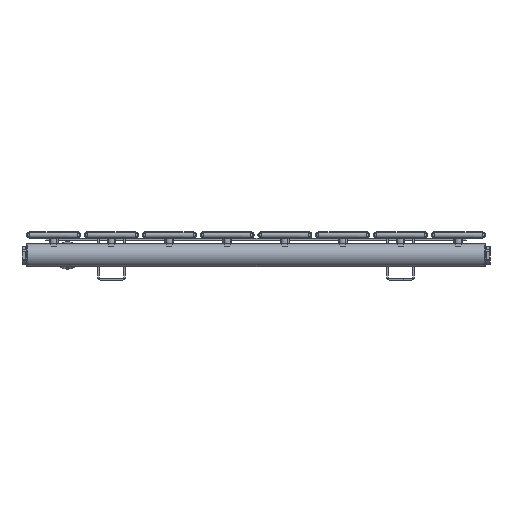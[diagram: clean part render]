
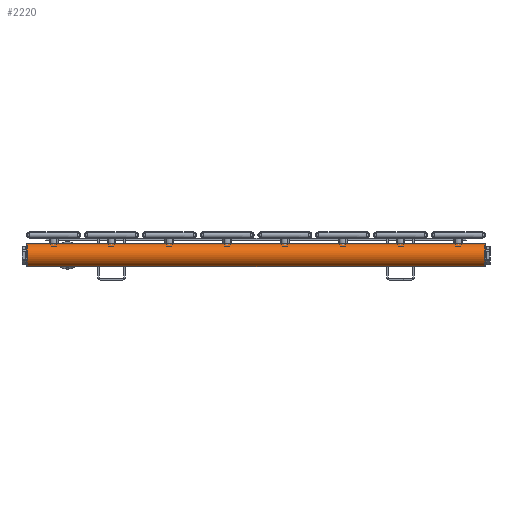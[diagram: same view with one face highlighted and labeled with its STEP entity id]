
A CAD part, left-side view. The second image highlights one B-rep face of the part: STEP entity #2220.
In plain terms, the highlighted cylindrical face has radius 15 mm (diameter 30 mm), a full revolution.
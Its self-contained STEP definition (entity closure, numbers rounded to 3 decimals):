
#672=FACE_BOUND('',#939,.T.);
#789=FACE_OUTER_BOUND('',#938,.T.);
#938=EDGE_LOOP('',(#1974));
#939=EDGE_LOOP('',(#1975));
#1050=CIRCLE('',#2501,15.);
#1051=CIRCLE('',#2503,15.);
#1216=VERTEX_POINT('',#3868);
#1217=VERTEX_POINT('',#3871);
#1478=EDGE_CURVE('',#1216,#1216,#1050,.T.);
#1479=EDGE_CURVE('',#1217,#1217,#1051,.T.);
#1974=ORIENTED_EDGE('',*,*,#1478,.F.);
#1975=ORIENTED_EDGE('',*,*,#1479,.F.);
#2113=CYLINDRICAL_SURFACE('',#2504,15.);
#2220=ADVANCED_FACE('',(#789,#672),#2113,.T.);
#2501=AXIS2_PLACEMENT_3D('',#3869,#3103,#3104);
#2503=AXIS2_PLACEMENT_3D('',#3872,#3107,#3108);
#2504=AXIS2_PLACEMENT_3D('',#3873,#3109,#3110);
#3103=DIRECTION('center_axis',(0.,0.,1.));
#3104=DIRECTION('ref_axis',(-1.,0.,0.));
#3107=DIRECTION('center_axis',(0.,0.,-1.));
#3108=DIRECTION('ref_axis',(-1.,0.,0.));
#3109=DIRECTION('center_axis',(0.,0.,1.));
#3110=DIRECTION('ref_axis',(-1.,0.,0.));
#3868=CARTESIAN_POINT('',(15.,-15.,595.));
#3869=CARTESIAN_POINT('Origin',(0.,-15.,595.));
#3871=CARTESIAN_POINT('',(15.,-15.,0.));
#3872=CARTESIAN_POINT('Origin',(0.,-15.,0.));
#3873=CARTESIAN_POINT('Origin',(0.,-15.,0.));
